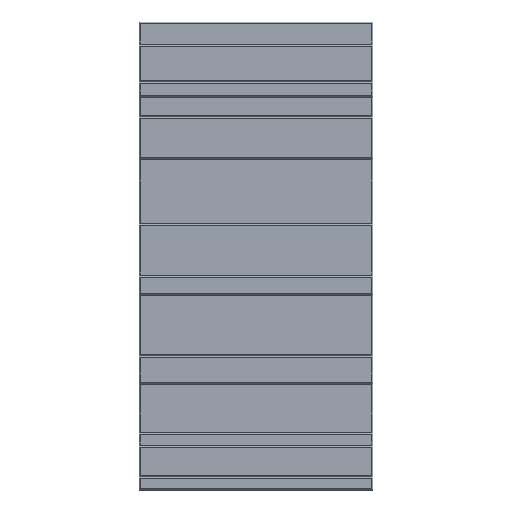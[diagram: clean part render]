
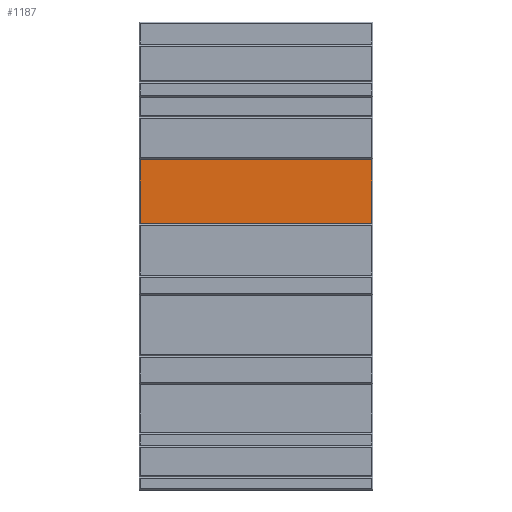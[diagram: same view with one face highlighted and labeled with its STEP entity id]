
A CAD part, top view. The second image highlights one B-rep face of the part: STEP entity #1187.
In plain terms, the highlighted planar face has unit normal (0, 0, 1).
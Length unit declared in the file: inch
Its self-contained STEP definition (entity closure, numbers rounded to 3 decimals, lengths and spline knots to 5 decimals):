
#57=FACE_OUTER_BOUND('',#132,.T.);
#132=EDGE_LOOP('',(#912,#913,#914,#915));
#217=LINE('',#1746,#380);
#247=LINE('',#1811,#410);
#264=LINE('',#1844,#427);
#289=LINE('',#1884,#452);
#380=VECTOR('',#1401,0.3937);
#410=VECTOR('',#1449,0.3937);
#427=VECTOR('',#1478,0.3937);
#452=VECTOR('',#1529,0.3937);
#534=VERTEX_POINT('',#1740);
#536=VERTEX_POINT('',#1744);
#561=VERTEX_POINT('',#1808);
#562=VERTEX_POINT('',#1810);
#633=EDGE_CURVE('',#534,#536,#217,.T.);
#663=EDGE_CURVE('',#562,#561,#247,.T.);
#680=EDGE_CURVE('',#534,#561,#264,.T.);
#705=EDGE_CURVE('',#562,#536,#289,.T.);
#912=ORIENTED_EDGE('',*,*,#633,.T.);
#913=ORIENTED_EDGE('',*,*,#705,.F.);
#914=ORIENTED_EDGE('',*,*,#663,.T.);
#915=ORIENTED_EDGE('',*,*,#680,.F.);
#1112=PLANE('',#1284);
#1187=ADVANCED_FACE('',(#57),#1112,.T.);
#1284=AXIS2_PLACEMENT_3D('',#1883,#1527,#1528);
#1401=DIRECTION('',(1.,0.,0.));
#1449=DIRECTION('',(-1.,0.,0.));
#1478=DIRECTION('',(0.,1.,0.));
#1527=DIRECTION('center_axis',(0.,0.,1.));
#1528=DIRECTION('ref_axis',(1.,0.,0.));
#1529=DIRECTION('',(0.,-1.,0.));
#1740=CARTESIAN_POINT('',(0.26608,54.7587,0.5));
#1744=CARTESIAN_POINT('',(47.76608,54.7587,0.5));
#1746=CARTESIAN_POINT('',(37.01608,54.7587,0.5));
#1808=CARTESIAN_POINT('',(0.26608,67.71328,0.5));
#1810=CARTESIAN_POINT('',(47.76608,67.71328,0.5));
#1811=CARTESIAN_POINT('',(11.01608,67.71328,0.5));
#1844=CARTESIAN_POINT('',(0.26608,72.01122,0.5));
#1883=CARTESIAN_POINT('Origin',(24.01608,48.01122,0.5));
#1884=CARTESIAN_POINT('',(47.76608,24.01122,0.5));
